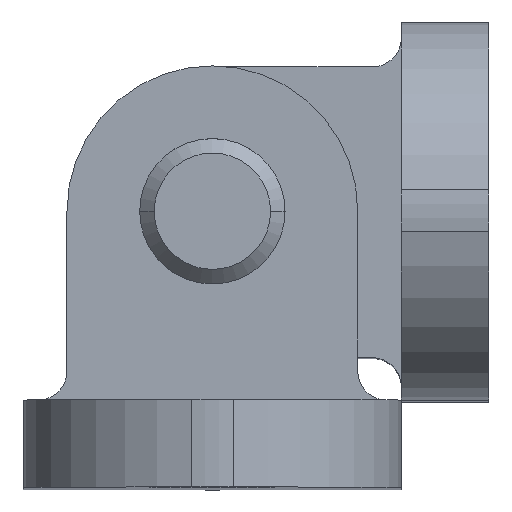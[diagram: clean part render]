
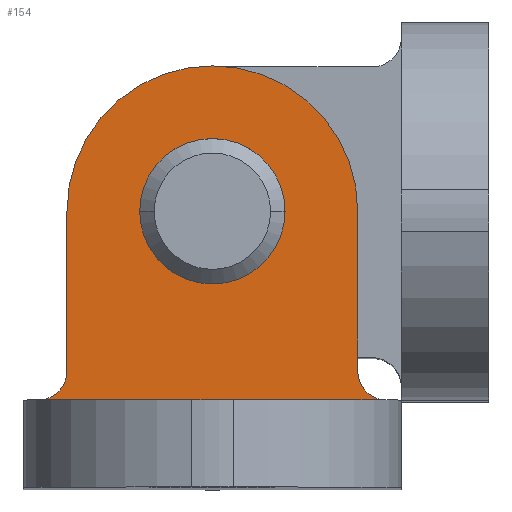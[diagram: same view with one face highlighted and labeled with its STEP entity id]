
A CAD part, top view. The second image highlights one B-rep face of the part: STEP entity #154.
In plain terms, the highlighted planar face has unit normal (0, 0, 1).
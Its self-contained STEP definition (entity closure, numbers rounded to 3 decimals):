
#7 = FACE_OUTER_BOUND ( 'NONE', #685, .T. ) ;
#12 = PLANE ( 'NONE',  #2133 ) ;
#151 = CARTESIAN_POINT ( 'NONE',  ( 6., -5.5, 49. ) ) ;
#154 = ADVANCED_FACE ( 'NONE', ( #7, #1775 ), #12, .F. ) ;
#171 = AXIS2_PLACEMENT_3D ( 'NONE', #888, #2086, #1059 ) ;
#254 = VERTEX_POINT ( 'NONE', #2005 ) ;
#261 = VERTEX_POINT ( 'NONE', #783 ) ;
#265 = DIRECTION ( 'NONE',  ( 0., 1., 0. ) ) ;
#370 = EDGE_CURVE ( 'NONE', #1719, #1038, #996, .T. ) ;
#378 = CARTESIAN_POINT ( 'NONE',  ( 5., 0., 49. ) ) ;
#458 = LINE ( 'NONE', #611, #918 ) ;
#467 = DIRECTION ( 'NONE',  ( 0., 1., 0. ) ) ;
#492 = AXIS2_PLACEMENT_3D ( 'NONE', #1722, #682, #1553 ) ;
#554 = EDGE_LOOP ( 'NONE', ( #658, #1530 ) ) ;
#556 = EDGE_CURVE ( 'NONE', #1921, #1363, #834, .T. ) ;
#579 = CIRCLE ( 'NONE', #492, 1. ) ;
#583 = CIRCLE ( 'NONE', #1313, 2.5 ) ;
#584 = VECTOR ( 'NONE', #592, 1000. ) ;
#592 = DIRECTION ( 'NONE',  ( 0., 1., 0. ) ) ;
#611 = CARTESIAN_POINT ( 'NONE',  ( 5., 0., 49. ) ) ;
#616 = VECTOR ( 'NONE', #1235, 1000. ) ;
#658 = ORIENTED_EDGE ( 'NONE', *, *, #951, .T. ) ;
#682 = DIRECTION ( 'NONE',  ( 0., 0., -1. ) ) ;
#685 = EDGE_LOOP ( 'NONE', ( #2119, #1047, #1860, #688, #1308, #1583 ) ) ;
#688 = ORIENTED_EDGE ( 'NONE', *, *, #1603, .F. ) ;
#754 = EDGE_CURVE ( 'NONE', #1363, #2149, #458, .T. ) ;
#783 = CARTESIAN_POINT ( 'NONE',  ( -2.5, 0., 49. ) ) ;
#834 = CIRCLE ( 'NONE', #1123, 1. ) ;
#872 = CARTESIAN_POINT ( 'NONE',  ( 0., 0., 49. ) ) ;
#888 = CARTESIAN_POINT ( 'NONE',  ( 0., 0., 49. ) ) ;
#914 = CARTESIAN_POINT ( 'NONE',  ( -5., -5.5, 49. ) ) ;
#918 = VECTOR ( 'NONE', #265, 1000. ) ;
#945 = CARTESIAN_POINT ( 'NONE',  ( -5., 0., 49. ) ) ;
#951 = EDGE_CURVE ( 'NONE', #261, #2125, #1357, .T. ) ;
#996 = LINE ( 'NONE', #945, #584 ) ;
#1029 = CARTESIAN_POINT ( 'NONE',  ( -73.5, -6.5, 49. ) ) ;
#1038 = VERTEX_POINT ( 'NONE', #1824 ) ;
#1046 = DIRECTION ( 'NONE',  ( 0., 1., 0. ) ) ;
#1047 = ORIENTED_EDGE ( 'NONE', *, *, #556, .T. ) ;
#1059 = DIRECTION ( 'NONE',  ( 0., 1., 0. ) ) ;
#1060 = CARTESIAN_POINT ( 'NONE',  ( -73.5, -6.5, 49. ) ) ;
#1103 = EDGE_CURVE ( 'NONE', #1719, #254, #579, .T. ) ;
#1123 = AXIS2_PLACEMENT_3D ( 'NONE', #151, #1168, #2211 ) ;
#1168 = DIRECTION ( 'NONE',  ( 0., 0., -1. ) ) ;
#1235 = DIRECTION ( 'NONE',  ( 1., 0., 0. ) ) ;
#1308 = ORIENTED_EDGE ( 'NONE', *, *, #370, .F. ) ;
#1313 = AXIS2_PLACEMENT_3D ( 'NONE', #872, #2076, #1046 ) ;
#1357 = CIRCLE ( 'NONE', #1579, 2.5 ) ;
#1363 = VERTEX_POINT ( 'NONE', #2027 ) ;
#1393 = CARTESIAN_POINT ( 'NONE',  ( 2.5, 0., 49. ) ) ;
#1461 = DIRECTION ( 'NONE',  ( 0., 1., 0. ) ) ;
#1492 = DIRECTION ( 'NONE',  ( 0., 0., -1. ) ) ;
#1530 = ORIENTED_EDGE ( 'NONE', *, *, #1573, .T. ) ;
#1553 = DIRECTION ( 'NONE',  ( 0., 1., 0. ) ) ;
#1573 = EDGE_CURVE ( 'NONE', #2125, #261, #583, .T. ) ;
#1579 = AXIS2_PLACEMENT_3D ( 'NONE', #1656, #1492, #1461 ) ;
#1583 = ORIENTED_EDGE ( 'NONE', *, *, #1103, .T. ) ;
#1603 = EDGE_CURVE ( 'NONE', #1038, #2149, #1861, .T. ) ;
#1656 = CARTESIAN_POINT ( 'NONE',  ( 0., 0., 49. ) ) ;
#1708 = DIRECTION ( 'NONE',  ( 0., 0., -1. ) ) ;
#1719 = VERTEX_POINT ( 'NONE', #914 ) ;
#1722 = CARTESIAN_POINT ( 'NONE',  ( -6., -5.5, 49. ) ) ;
#1775 = FACE_BOUND ( 'NONE', #554, .T. ) ;
#1824 = CARTESIAN_POINT ( 'NONE',  ( -5., 0., 49. ) ) ;
#1860 = ORIENTED_EDGE ( 'NONE', *, *, #754, .T. ) ;
#1861 = CIRCLE ( 'NONE', #171, 5. ) ;
#1921 = VERTEX_POINT ( 'NONE', #2000 ) ;
#2000 = CARTESIAN_POINT ( 'NONE',  ( 6., -6.5, 49. ) ) ;
#2001 = LINE ( 'NONE', #1060, #616 ) ;
#2005 = CARTESIAN_POINT ( 'NONE',  ( -6., -6.5, 49. ) ) ;
#2027 = CARTESIAN_POINT ( 'NONE',  ( 5., -5.5, 49. ) ) ;
#2076 = DIRECTION ( 'NONE',  ( 0., 0., -1. ) ) ;
#2086 = DIRECTION ( 'NONE',  ( 0., 0., -1. ) ) ;
#2119 = ORIENTED_EDGE ( 'NONE', *, *, #2140, .T. ) ;
#2125 = VERTEX_POINT ( 'NONE', #1393 ) ;
#2133 = AXIS2_PLACEMENT_3D ( 'NONE', #1029, #1708, #467 ) ;
#2140 = EDGE_CURVE ( 'NONE', #254, #1921, #2001, .T. ) ;
#2149 = VERTEX_POINT ( 'NONE', #378 ) ;
#2211 = DIRECTION ( 'NONE',  ( 0., 1., 0. ) ) ;
